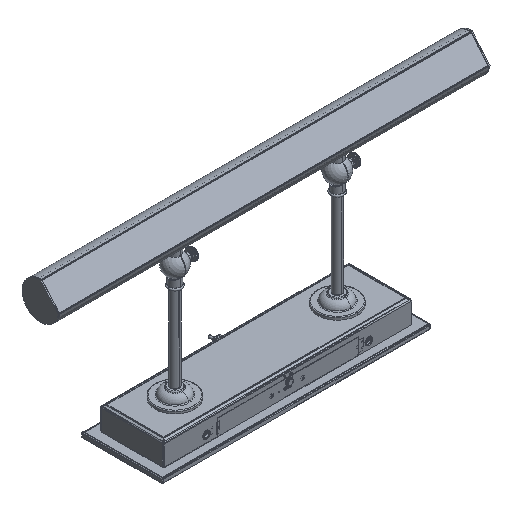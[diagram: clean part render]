
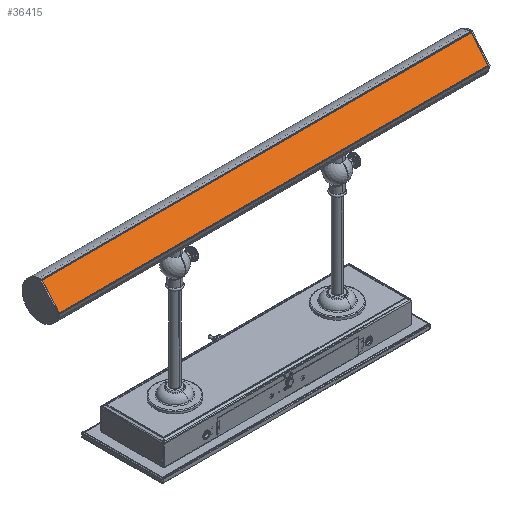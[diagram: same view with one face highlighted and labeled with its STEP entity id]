
A CAD part, isometric view. The second image highlights one B-rep face of the part: STEP entity #36415.
In plain terms, the highlighted planar face has unit normal (0, -0.766, 0.643) as drawn and (0, 1, 0) by its records, which use the part's own axes.
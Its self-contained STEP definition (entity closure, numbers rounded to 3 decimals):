
#36288=DIRECTION('',(0.,0.,1.));
#36289=VECTOR('',#36288,37.);
#36290=CARTESIAN_POINT('',(-303.5,3.,-18.5));
#36291=LINE('',#36290,#36289);
#36295=DIRECTION('',(-1.,0.,0.));
#36296=VECTOR('',#36295,607.);
#36297=CARTESIAN_POINT('',(303.5,3.,-18.5));
#36298=LINE('',#36297,#36296);
#36302=DIRECTION('',(0.,0.,-1.));
#36303=VECTOR('',#36302,37.);
#36304=CARTESIAN_POINT('',(303.5,3.,18.5));
#36305=LINE('',#36304,#36303);
#36309=DIRECTION('',(1.,0.,0.));
#36310=VECTOR('',#36309,607.);
#36311=CARTESIAN_POINT('',(-303.5,3.,18.5));
#36312=LINE('',#36311,#36310);
#36324=CARTESIAN_POINT('',(-303.5,3.,-18.5));
#36325=CARTESIAN_POINT('',(-303.5,3.,18.5));
#36326=VERTEX_POINT('',#36324);
#36327=VERTEX_POINT('',#36325);
#36328=CARTESIAN_POINT('',(303.5,3.,18.5));
#36329=VERTEX_POINT('',#36328);
#36330=CARTESIAN_POINT('',(303.5,3.,-18.5));
#36331=VERTEX_POINT('',#36330);
#36404=CARTESIAN_POINT('',(0.,3.,0.));
#36405=DIRECTION('',(0.,1.,0.));
#36406=DIRECTION('',(1.,0.,0.));
#36407=AXIS2_PLACEMENT_3D('',#36404,#36405,#36406);
#36408=PLANE('',#36407);
#36409=ORIENTED_EDGE('',*,*,#36356,.F.);
#36410=ORIENTED_EDGE('',*,*,#36371,.F.);
#36411=ORIENTED_EDGE('',*,*,#36385,.F.);
#36412=ORIENTED_EDGE('',*,*,#36398,.F.);
#36413=EDGE_LOOP('',(#36409,#36410,#36411,#36412));
#36414=FACE_OUTER_BOUND('',#36413,.F.);
#36356=EDGE_CURVE('',#36326,#36327,#36291,.T.);
#36371=EDGE_CURVE('',#36331,#36326,#36298,.T.);
#36385=EDGE_CURVE('',#36329,#36331,#36305,.T.);
#36398=EDGE_CURVE('',#36327,#36329,#36312,.T.);
#36415=ADVANCED_FACE('',(#36414),#36408,.T.);
